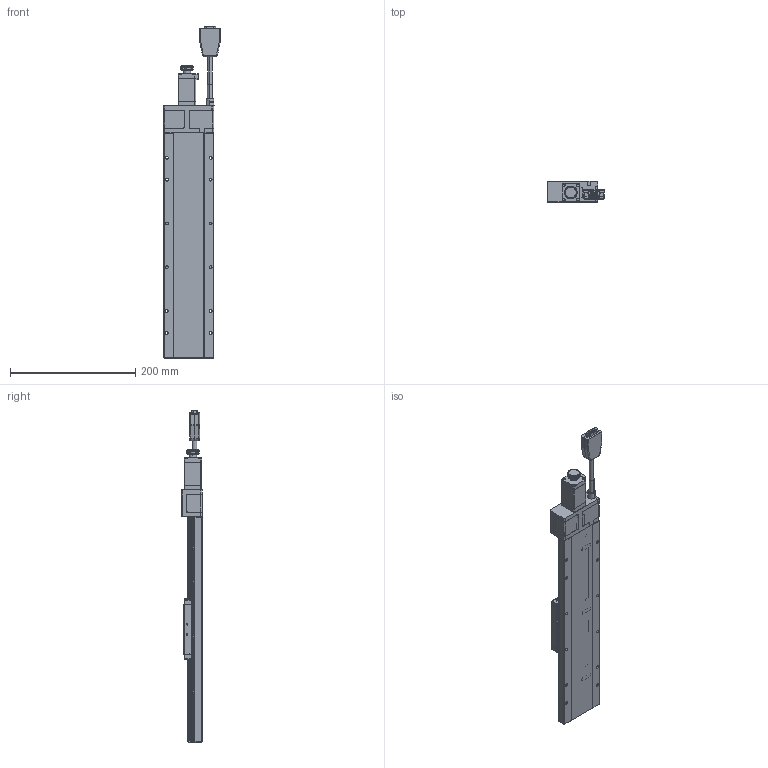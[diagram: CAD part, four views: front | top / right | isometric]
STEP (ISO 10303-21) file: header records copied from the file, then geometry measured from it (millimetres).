
FILE_DESCRIPTION (( 'STEP AP203' ), '1' );
FILE_NAME ('CXN80250-S2?N.STEP', '2023-09-28T06:09:23', ( '' ), ( '' ), 'SwSTEP 2.0', 'SolidWorks 2019', '' );
FILE_SCHEMA (( 'CONFIG_CONTROL_DESIGN' ));
Length unit declared in the file: millimetre
Products named in the file (4): Group2^CXN80250-S2?N(2023新版)_defeature_GMT; CXN80_GMT; CXN80250-S2?N; Group1^CXN80250-S2?N(2023新版)_defeature_GMT
Assembly tree (3 placements, depth 2):
  CXN80250-S2?N
    Group1^CXN80250-S2?N(2023新版)_defeature_GMT
    Group2^CXN80250-S2?N(2023新版)_defeature_GMT
    CXN80_GMT
Bounding box: 90.5 x 33.5 x 530.6 mm (x, y, z)
Volume: 60015.8 mm3; surface area: 185044.8 mm2
Topology: 23 solids, 26 shells, 4554 faces, 11803 edges, 7331 vertices
Faces by surface type: plane 1792, cylinder 1273, cone 532, torus 422, bspline 403, sphere 132
Entity records: 158755 total; most frequent: CARTESIAN_POINT 49343, ORIENTED_EDGE 23298, DIRECTION 22421, EDGE_CURVE 11649, AXIS2_PLACEMENT_3D 8304, VERTEX_POINT 7323, VECTOR 5813, LINE 5813
